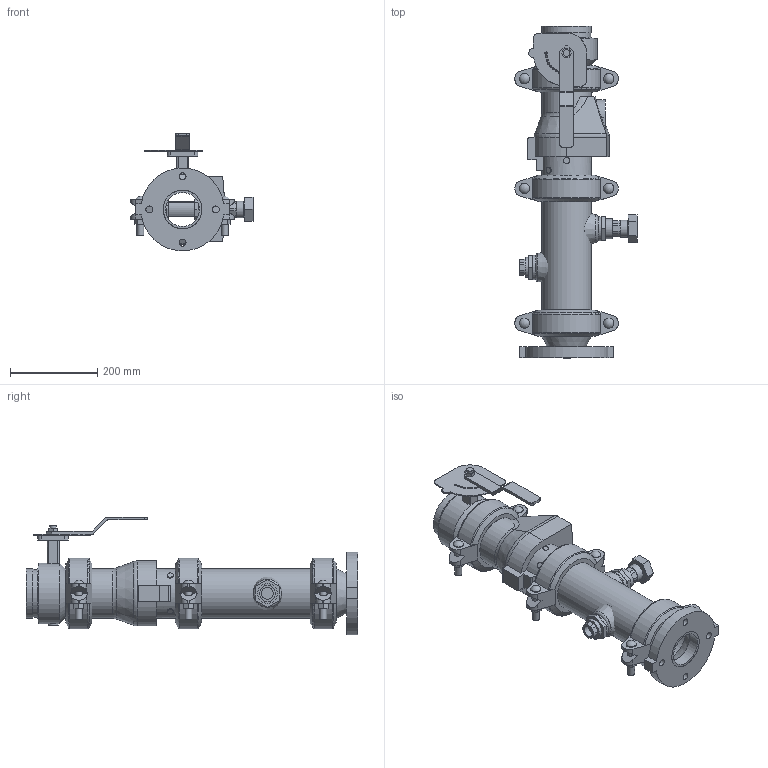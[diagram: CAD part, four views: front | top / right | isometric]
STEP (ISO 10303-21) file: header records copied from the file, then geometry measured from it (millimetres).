
FILE_DESCRIPTION(/* description */ ('VIC DVI PUMP DROP VERT S/380 (OGSxFLG) (S/924-1.25)','CAx-IF Rec.Pracs.---Representation and Presentation of Product Manufacturing Information (PMI)---4.0---2014-10-13'),/* implementation_level */ '2;1');
FILE_NAME(/* name */ 'C:\Users\Public\Documents\Victaulic.Temp\A765\Victaulic_IPS_Vertical DVI_CL 150_Series 380 (OGSxFLG)_924 (1.25)_04.0x03.0 (100x80).stp',/* time_stamp */ '2022-07-25T11:10:54+02:00',/* author */ ('Vjadhav'),/* organization */ ('Victaulic'),/* preprocessor_version */ 'ST-DEVELOPER v18',/* originating_system */ 'Autodesk Inventor 2020',/* authorisation */ '');
FILE_SCHEMA (('AP242_MANAGED_MODEL_BASED_3D_ENGINEERING_MIM_LF { 1 0 10303 442 1 1 4 }'));
Length unit declared in the file: inch
Products named in the file (9): 380_924 (1.25)-04.0x03.0; 741-03.0; 050-04.0x03.0; Pipe-04.0; 177N-04.0; 761-04.0; 779-04.0; 923-04.0x0.75; 924-04.0x01.25
Assembly tree (10 placements, depth 2):
  380_924 (1.25)-04.0x03.0
    741-03.0
    050-04.0x03.0
    177N-04.0  x3
    Pipe-04.0
    761-04.0
    779-04.0
    923-04.0x0.75
    924-04.0x01.25
Bounding box: 280.36 x 762 x 269.92 mm (x, y, z)
Volume: 6165815.9 mm3; surface area: 1083793.1 mm2
Topology: 10 solids, 12 shells, 603 faces, 1567 edges, 1046 vertices
Faces by surface type: plane 356, cylinder 201, cone 20, torus 18, sphere 6, bspline 2
Full cylindrical faces by diameter (mm): 4.826 x10, 8.636 x4, 13.716 x2, 14.986 x2, 15.875 x10, 21.336 x1, 22.86 x1, 23.495 x6, 26.67 x2, 38.608 x1, 42.164 x1, 45.974 x4, 48.514 x1, 55.118 x1, 55.626 x2, 77.927 x1, 84.938 x1, 88.9 x3, 101.6 x3, 102.26 x4, 110.084 x7, 114.3 x19, 139.7 x1
Entity records: 14365 total; most frequent: CARTESIAN_POINT 2828, DIRECTION 2377, ORIENTED_EDGE 2162, EDGE_CURVE 1081, AXIS2_PLACEMENT_3D 899, VERTEX_POINT 726, LINE 579, VECTOR 579
